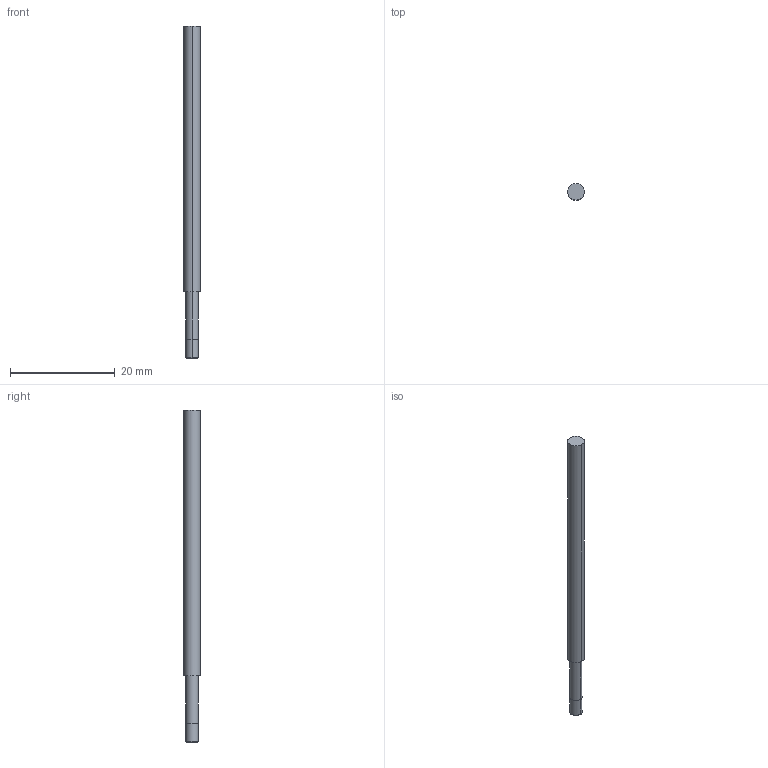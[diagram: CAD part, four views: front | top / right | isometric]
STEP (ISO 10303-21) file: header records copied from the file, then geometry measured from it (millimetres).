
FILE_DESCRIPTION((' '),'2;1');
FILE_NAME( '3MVS0938R.005N5AH.stp', '2026-01-21T19:25:54', (' '), ('--- Datakit www.datakit.com---'), ' Datakit CrossCadWare V2025.4 Sep 19 2025', 'Mastercam 2027', ' ');
FILE_SCHEMA(('AUTOMOTIVE_DESIGN { 1 0 10303 214 1 1 1 1 }'));
Length unit declared in the file: inch
Products named in the file (1): 3MVS0938R
Bounding box: 3.17 x 3.17 x 63.5 mm (x, y, z)
Volume: 458.8 mm3; surface area: 617.2 mm2
Topology: 1 solids, 1 shells, 11 faces, 20 edges, 12 vertices
Faces by surface type: cylinder 6, plane 3, torus 2
Entity records: 356 total; most frequent: DIRECTION 66, CARTESIAN_POINT 48, ORIENTED_EDGE 40, AXIS2_PLACEMENT_3D 30, EDGE_CURVE 20, CIRCLE 14, VERTEX_POINT 12, EDGE_LOOP 12
